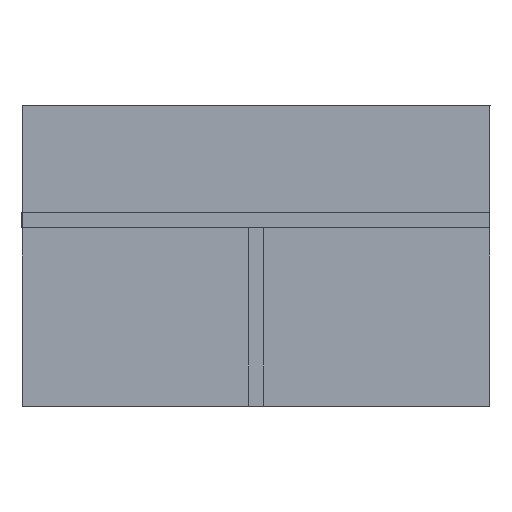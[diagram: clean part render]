
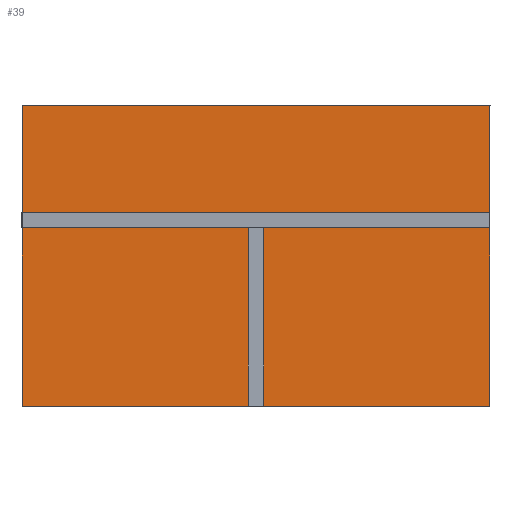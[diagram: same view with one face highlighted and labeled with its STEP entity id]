
A CAD part, left-side view. The second image highlights one B-rep face of the part: STEP entity #39.
In plain terms, the highlighted planar face has unit normal (-1, 0, 0).
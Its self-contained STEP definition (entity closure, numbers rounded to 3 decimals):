
#39=ADVANCED_FACE('',(#67),#393,.T.);
#67=FACE_OUTER_BOUND('',#95,.T.);
#95=EDGE_LOOP('',(#153,#154,#155,#156));
#153=ORIENTED_EDGE('',*,*,#246,.T.);
#154=ORIENTED_EDGE('',*,*,#240,.T.);
#155=ORIENTED_EDGE('',*,*,#242,.T.);
#156=ORIENTED_EDGE('',*,*,#248,.F.);
#240=EDGE_CURVE('',#356,#353,#300,.T.);
#242=EDGE_CURVE('',#353,#357,#302,.T.);
#246=EDGE_CURVE('',#360,#356,#306,.T.);
#248=EDGE_CURVE('',#360,#357,#308,.T.);
#300=B_SPLINE_CURVE_WITH_KNOTS('',1,(#549,#550),.UNSPECIFIED.,.F.,.F.,(2,
2),(-500.,0.),.UNSPECIFIED.);
#302=B_SPLINE_CURVE_WITH_KNOTS('',1,(#553,#554),.UNSPECIFIED.,.F.,.F.,(2,
2),(116.861,321.189),.UNSPECIFIED.);
#306=B_SPLINE_CURVE_WITH_KNOTS('',1,(#561,#562),.UNSPECIFIED.,.F.,.F.,(2,
2),(878.811,1083.139),.UNSPECIFIED.);
#308=B_SPLINE_CURVE_WITH_KNOTS('',1,(#565,#566),.UNSPECIFIED.,.F.,.F.,(2,
2),(2391.224,2941.224),.UNSPECIFIED.);
#353=VERTEX_POINT('',#535);
#356=VERTEX_POINT('',#538);
#357=VERTEX_POINT('',#539);
#360=VERTEX_POINT('',#542);
#393=PLANE('',#441);
#441=AXIS2_PLACEMENT_3D('',#534,#467,$);
#467=DIRECTION('',(-1.,0.,0.));
#534=CARTESIAN_POINT('',(8273.738,6857.473,-201.799));
#535=CARTESIAN_POINT('',(8273.738,6307.473,0.092));
#538=CARTESIAN_POINT('',(8273.738,6857.473,0.092));
#539=CARTESIAN_POINT('',(8273.738,6307.473,353.092));
#542=CARTESIAN_POINT('',(8273.738,6857.473,353.092));
#549=CARTESIAN_POINT('',(8273.738,6857.473,0.092));
#550=CARTESIAN_POINT('',(8273.738,6307.473,0.092));
#553=CARTESIAN_POINT('',(8273.738,6307.473,0.092));
#554=CARTESIAN_POINT('',(8273.738,6307.473,353.092));
#561=CARTESIAN_POINT('',(8273.738,6857.473,353.092));
#562=CARTESIAN_POINT('',(8273.738,6857.473,0.092));
#565=CARTESIAN_POINT('',(8273.738,6857.473,353.092));
#566=CARTESIAN_POINT('',(8273.738,6307.473,353.092));
